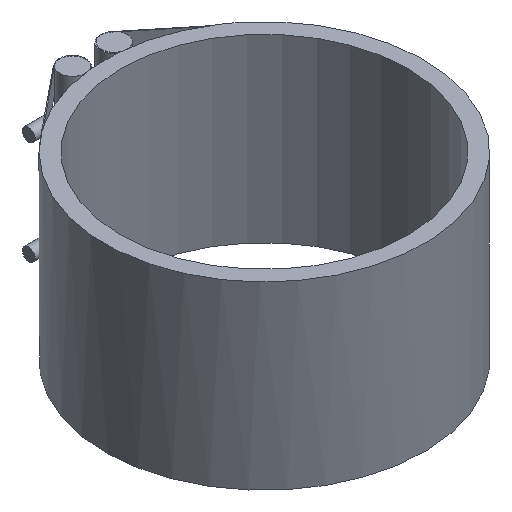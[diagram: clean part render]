
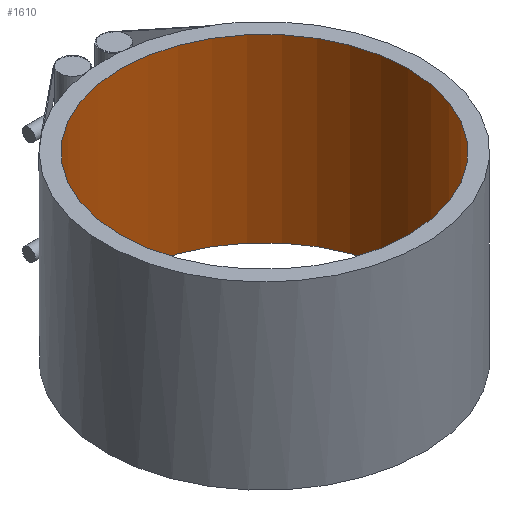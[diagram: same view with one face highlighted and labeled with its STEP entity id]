
A CAD part, isometric view. The second image highlights one B-rep face of the part: STEP entity #1610.
In plain terms, the highlighted cylindrical face has radius 112.5 mm (diameter 225 mm), a full revolution.
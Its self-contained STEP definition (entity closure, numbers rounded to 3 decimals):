
#364=CYLINDRICAL_SURFACE('',#1752,112.5);
#418=FACE_BOUND('',#594,.T.);
#466=FACE_OUTER_BOUND('',#593,.T.);
#593=EDGE_LOOP('',(#1313));
#594=EDGE_LOOP('',(#1314));
#691=CIRCLE('',#1753,112.5);
#692=CIRCLE('',#1754,112.5);
#831=VERTEX_POINT('',#2856);
#832=VERTEX_POINT('',#2858);
#1007=EDGE_CURVE('',#831,#831,#691,.T.);
#1008=EDGE_CURVE('',#832,#832,#692,.T.);
#1313=ORIENTED_EDGE('',*,*,#1007,.F.);
#1314=ORIENTED_EDGE('',*,*,#1008,.F.);
#1610=ADVANCED_FACE('',(#466,#418),#364,.F.);
#1752=AXIS2_PLACEMENT_3D('',#2855,#2089,#2090);
#1753=AXIS2_PLACEMENT_3D('',#2857,#2091,#2092);
#1754=AXIS2_PLACEMENT_3D('',#2859,#2093,#2094);
#2089=DIRECTION('center_axis',(0.,0.,1.));
#2090=DIRECTION('ref_axis',(-1.,0.,0.));
#2091=DIRECTION('center_axis',(0.,0.,1.));
#2092=DIRECTION('ref_axis',(-1.,0.,0.));
#2093=DIRECTION('center_axis',(0.,0.,-1.));
#2094=DIRECTION('ref_axis',(-1.,0.,0.));
#2855=CARTESIAN_POINT('Origin',(0.,0.,0.));
#2856=CARTESIAN_POINT('',(112.5,0.,-70.5));
#2857=CARTESIAN_POINT('Origin',(0.,0.,-70.5));
#2858=CARTESIAN_POINT('',(112.5,0.,70.5));
#2859=CARTESIAN_POINT('Origin',(0.,0.,70.5));
